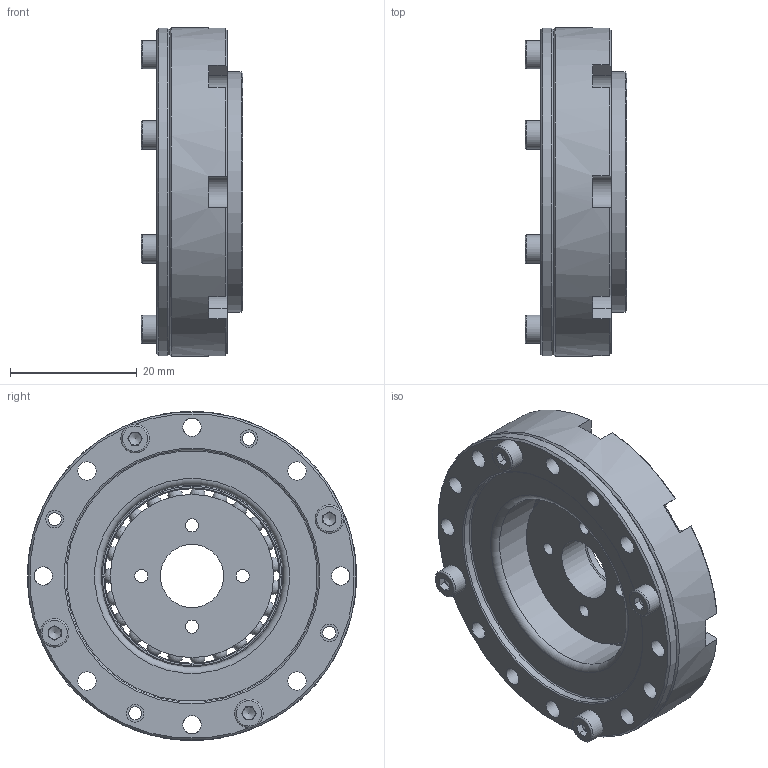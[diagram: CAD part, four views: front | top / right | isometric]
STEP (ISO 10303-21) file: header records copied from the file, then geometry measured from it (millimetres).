
FILE_DESCRIPTION (( 'STEP AP203' ), '1' );
FILE_NAME ('LHD-11-XXX-C-I.STEP', '2025-02-21T06:43:06', ( '' ), ( '' ), 'SwSTEP 2.0', 'SolidWorks 2023', '' );
FILE_SCHEMA (( 'CONFIG_CONTROL_DESIGN' ));
Length unit declared in the file: millimetre
Products named in the file (1): LHD-11-XXX-C-I
Bounding box: 16.1 x 52 x 52 mm (x, y, z)
Volume: 16525.3 mm3; surface area: 21754.7 mm2
Topology: 16 solids, 16 shells, 525 faces, 1352 edges, 841 vertices
Faces by surface type: plane 212, cone 146, cylinder 123, sphere 23, torus 20, bspline 1
Full cylindrical faces by diameter (mm): 1.6 x16, 2 x4, 2.05 x12, 2.4 x4, 2.5 x4, 2.8 x8, 2.9 x16, 3 x4, 3.8 x4, 4.5 x4, 10 x1, 10.1 x1, 21 x2, 22.1 x1, 22.8 x1, 23.5 x1, 23.8 x1, 24 x1, 24.2 x2, 25.8 x1, 27.56 x2, 28.8 x2, 29.687 x1, 29.8 x1, 30.5 x1, 31.5 x1, 35.172 x1, 37.749 x1, 38 x2, 38.2 x2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
Entity records: 15271 total; most frequent: CARTESIAN_POINT 3922, DIRECTION 2386, ORIENTED_EDGE 1952, AXIS2_PLACEMENT_3D 1041, EDGE_CURVE 976, EDGE_LOOP 920, VERTEX_POINT 730, FACE_OUTER_BOUND 636
